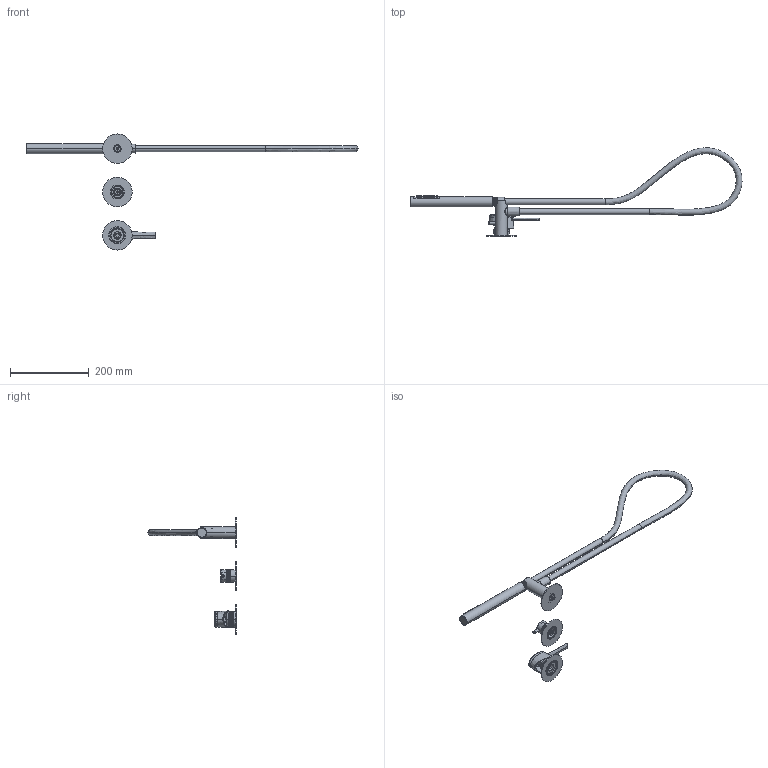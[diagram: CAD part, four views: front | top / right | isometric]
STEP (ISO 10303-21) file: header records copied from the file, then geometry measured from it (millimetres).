
FILE_DESCRIPTION((''),'2;1');
FILE_NAME('58559V2_SW0001','2025-01-08T16:00:13',('carloff'),(''),'CREO PARAMETRIC BY PTC INC, 2022014','CREO PARAMETRIC BY PTC INC, 2022014','');
FILE_SCHEMA(('CONFIG_CONTROL_DESIGN'));
Products named in the file (1): 58559V2_SW0001
Bounding box: 842.83 x 223.95 x 295 mm (x, y, z)
Volume: 443442.7 mm3; surface area: 200411.9 mm2
Topology: 8 solids, 8 shells, 1490 faces, 3817 edges, 2423 vertices
Faces by surface type: cylinder 703, plane 293, bspline 239, cone 142, torus 97, sphere 16
Entity records: 145828 total; most frequent: CARTESIAN_POINT 112623, ORIENTED_EDGE 7578, DIRECTION 5782, EDGE_CURVE 3789, VERTEX_POINT 2423, AXIS2_PLACEMENT_3D 2212, EDGE_LOOP 1650, FACE_OUTER_BOUND 1490
